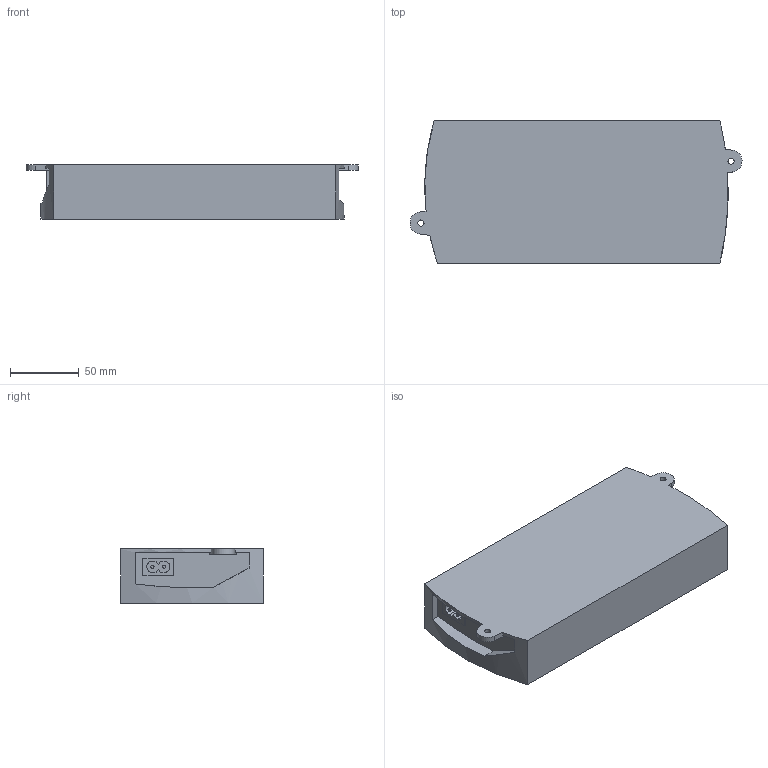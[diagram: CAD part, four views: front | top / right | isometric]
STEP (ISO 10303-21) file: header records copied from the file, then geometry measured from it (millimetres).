
FILE_DESCRIPTION( ( 'STEP AP214' ), '1' );
FILE_NAME( 'C:/Users/KOSH/Desktop/New folder/9309941.stp', '2022-01-27T11:09:55', ( '' ), ( '' ), ' ', 'PARTsolutions', ' ' );
FILE_SCHEMA( ( 'AUTOMOTIVE_DESIGN { 1 0 10303 214 1 1 1 1 }' ) );
Length unit declared in the file: millimetre
Products named in the file (1): _9309941
Bounding box: 240.94 x 103.25 x 39.22 mm (x, y, z)
Volume: 830779.8 mm3; surface area: 78584 mm2
Topology: 1 solids, 1 shells, 189 faces, 489 edges, 326 vertices
Faces by surface type: plane 177, cylinder 12
Full cylindrical faces by diameter (mm): 2.3 x2, 4.4 x2
Entity records: 7202 total; most frequent: CARTESIAN_POINT 1019, ORIENTED_EDGE 970, DIRECTION 892, EDGE_CURVE 485, LINE 454, VECTOR 454, VERTEX_POINT 326, EDGE_LOOP 221
